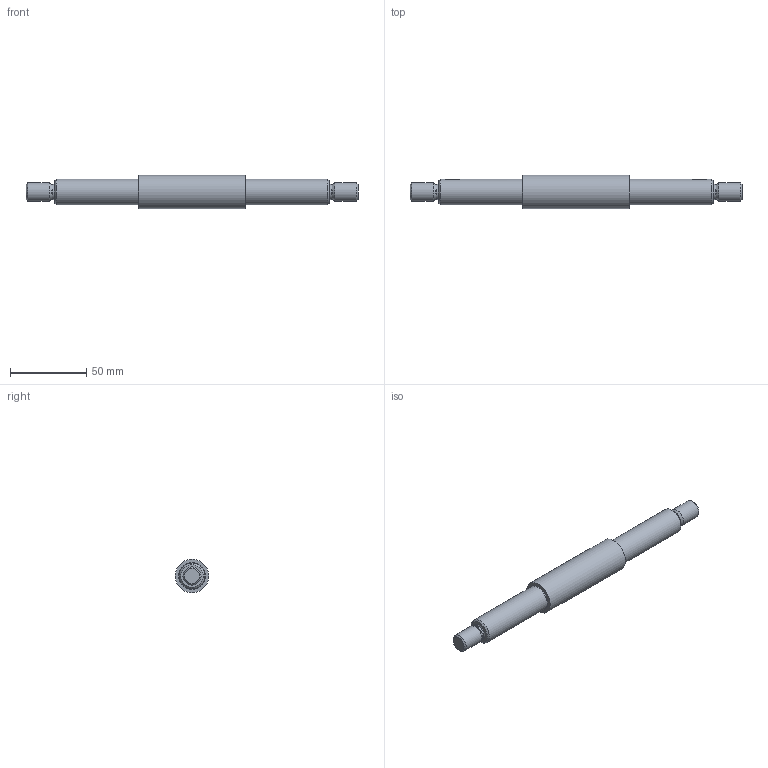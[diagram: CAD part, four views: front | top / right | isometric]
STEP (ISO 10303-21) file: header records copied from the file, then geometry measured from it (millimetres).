
FILE_DESCRIPTION(/* description */ (''),/* implementation_level */ '2;1');
FILE_NAME(/* name */ '',/* time_stamp */ '2025-03-27T10:23:53+09:00',/* author */ ('jhkim'),/* organization */ (''),/* preprocessor_version */ 'ST-DEVELOPER v20',/* originating_system */ 'Autodesk Inventor 2025',/* authorisation */ '');
FILE_SCHEMA (('AUTOMOTIVE_DESIGN { 1 0 10303 214 3 1 1 }'));
Length unit declared in the file: millimetre
Products named in the file (1): 축
Bounding box: 218 x 22 x 22 mm (x, y, z)
Volume: 55279.7 mm3; surface area: 12975.7 mm2
Topology: 1 solids, 1 shells, 35 faces, 81 edges, 54 vertices
Faces by surface type: plane 12, cylinder 11, torus 6, cone 6
Full cylindrical faces by diameter (mm): 10 x2, 12 x2, 17 x2, 22 x1
Entity records: 1118 total; most frequent: CARTESIAN_POINT 243, DIRECTION 189, ORIENTED_EDGE 162, EDGE_CURVE 81, AXIS2_PLACEMENT_3D 80, VERTEX_POINT 54, CIRCLE 44, EDGE_LOOP 41
